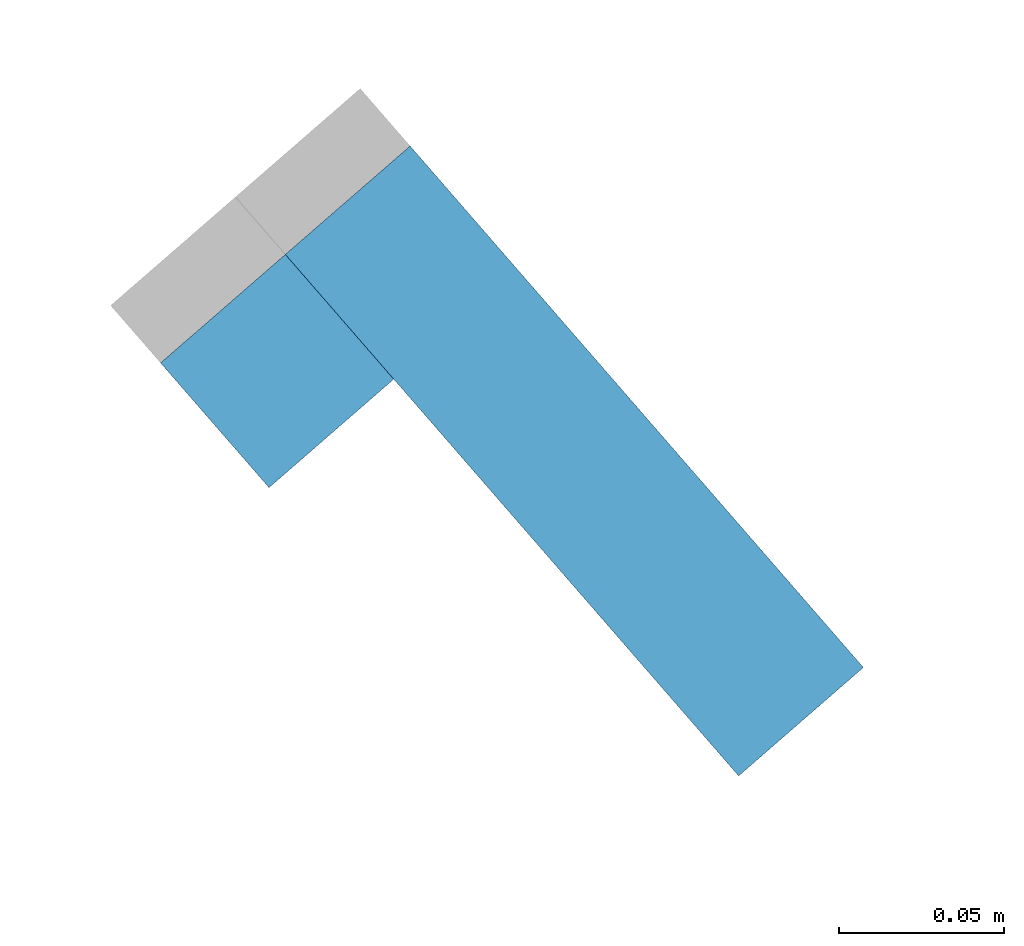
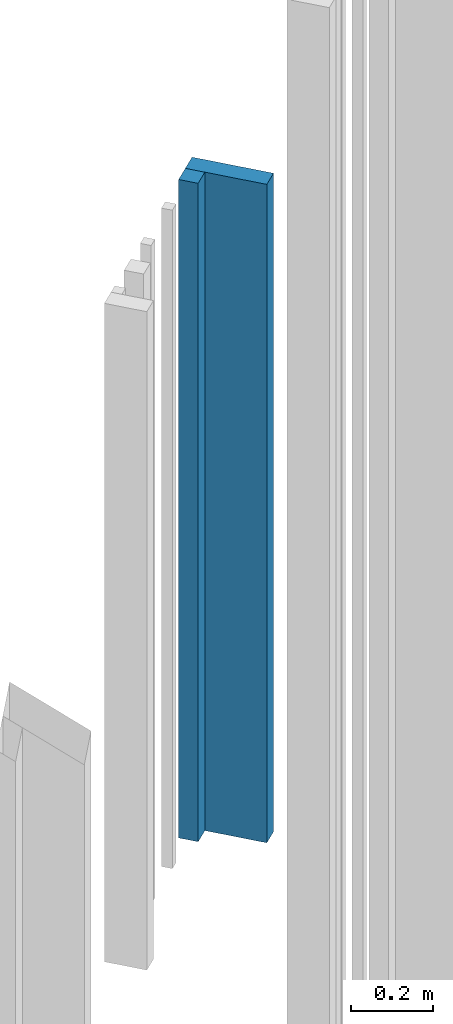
# One storey, part 260 of 390: 2 walls.
"""IFC2X3 building model written with IfcOpenShell, lengths in millimetres."""

from ifc_helpers import new_model, entity, si_unit, converted_unit, derived_unit, money_unit, direction, frame, origin_with_axes, place, context, subcontext, project, spatial, faceted_brep, material, type_object, element, save


model = new_model("IFC2X3")

# Units and contexts
model_context = context("Model", 3, precision=1e-05, world=origin_with_axes(), true_north=direction((0.0, 1.0)))
body_context = subcontext(model_context, "Body", "Model", "MODEL_VIEW")
ifc_project = project(units=[si_unit("LENGTHUNIT", "METRE", prefix="MILLI"), si_unit("AREAUNIT", "SQUARE_METRE"), si_unit("VOLUMEUNIT", "CUBIC_METRE"), converted_unit("PLANEANGLEUNIT", "DEGREE", entity("IfcPlaneAngleMeasure", 0.0174532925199), si_unit("PLANEANGLEUNIT", "RADIAN"), dimensions=[0, 0, 0, 0, 0, 0, 0]), si_unit("SOLIDANGLEUNIT", "STERADIAN"), money_unit("EUR"), converted_unit("TIMEUNIT", "Year", entity("IfcTimeMeasure", 31556926.0), si_unit("TIMEUNIT", "SECOND"), dimensions=[0, 0, 1, 0, 0, 0, 0]), si_unit("MASSUNIT", "GRAM", prefix="KILO"), si_unit("THERMODYNAMICTEMPERATUREUNIT", "DEGREE_CELSIUS"), si_unit("LUMINOUSINTENSITYUNIT", "LUMEN"), si_unit("ENERGYUNIT", "JOULE", prefix="MEGA"), derived_unit("THERMALCONDUCTANCEUNIT", [(si_unit("POWERUNIT", "WATT"), 1), (si_unit("LENGTHUNIT", "METRE"), -1), (si_unit("THERMODYNAMICTEMPERATUREUNIT", "KELVIN"), -1)]), derived_unit("SPECIFICHEATCAPACITYUNIT", [(si_unit("ENERGYUNIT", "JOULE"), 1), (si_unit("MASSUNIT", "GRAM", prefix="KILO"), -1), (si_unit("THERMODYNAMICTEMPERATUREUNIT", "KELVIN"), -1)]), derived_unit("MASSDENSITYUNIT", [(si_unit("MASSUNIT", "GRAM", prefix="KILO"), 1), (si_unit("VOLUMEUNIT", "CUBIC_METRE"), -1)])], contexts=[model_context])

# Site, building, storey
site_placement = place(None, origin_with_axes())
site = spatial("IfcSite", under=ifc_project, at=site_placement, Name="Site", CompositionType="ELEMENT")
building_placement = place(site_placement, origin_with_axes())
building = spatial("IfcBuilding", under=site, at=building_placement, Name="Building", CompositionType="ELEMENT")
storey_placement = place(building_placement, origin_with_axes())
storey = spatial("IfcBuildingStorey", under=building, at=storey_placement, Name="1 korrus", CompositionType="ELEMENT", Elevation=0.0)

# Walls
ifc_material = material(Name="Site specified")
wall_type = type_object("IfcWallType", Name="Puitfassaadi ribistik", PredefinedType="NOTDEFINED")
wall_1_placement = place(storey_placement, frame((165288.055475, 88313.3311991, 7915.0), z_axis=(0.0, 0.0, 1.0), x_axis=(-0.754709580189, -0.65605902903, 0.0)))
element("IfcWall", 1, at=wall_1_placement, inside=storey, type_object=wall_type, material=ifc_material, Name="Site specified", context=body_context, shape_type="Brep", body=[
    faceted_brep([(-25.0, -25.0, 1950.0), (-25.0, -25.0, 0.0), (25.0, -25.0, 0.0), (25.0, -25.0, 1950.0), (-25.0, 25.0, 1950.0), (-25.0, 25.0, 0.0), (25.0, 25.0, 0.0), (25.0, 25.0, 1950.0)], [[[0, 1, 2, 3]], [[4, 5, 1, 0]], [[2, 1, 5, 6]], [[3, 2, 6, 7]], [[4, 0, 3, 7]], [[7, 6, 5, 4]]]),
])
wall_2_placement = place(storey_placement, frame((165377.947646, 88286.1347389, 7915.0), z_axis=(0.0, 0.0, 1.0), x_axis=(-0.754709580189, -0.65605902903, 0.0)))
element("IfcWall", 2, at=wall_2_placement, inside=storey, type_object=wall_type, material=ifc_material, Name="Site specified", context=body_context, shape_type="Brep", body=[
    faceted_brep([(-25.0, -104.5, 1950.0), (-25.0, -104.5, 0.0), (25.0, -104.5, 0.0), (25.0, -104.5, 1950.0), (-25.0, 104.5, 1950.0), (-25.0, 104.5, 0.0), (25.0, 104.5, 0.0), (25.0, 104.5, 1950.0)], [[[0, 1, 2, 3]], [[4, 5, 1, 0]], [[2, 1, 5, 6]], [[3, 2, 6, 7]], [[4, 0, 3, 7]], [[7, 6, 5, 4]]]),
])

save(model, "model.ifc")
